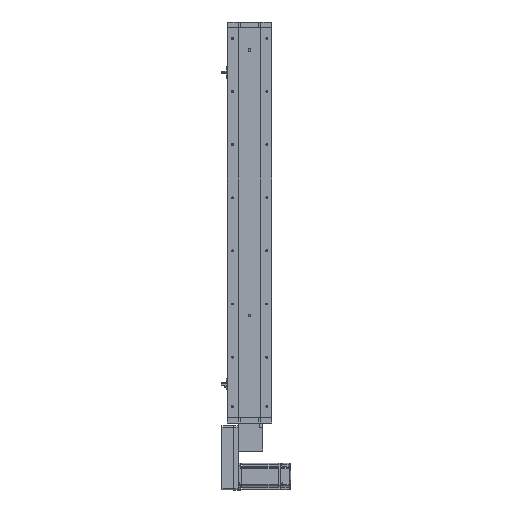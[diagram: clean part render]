
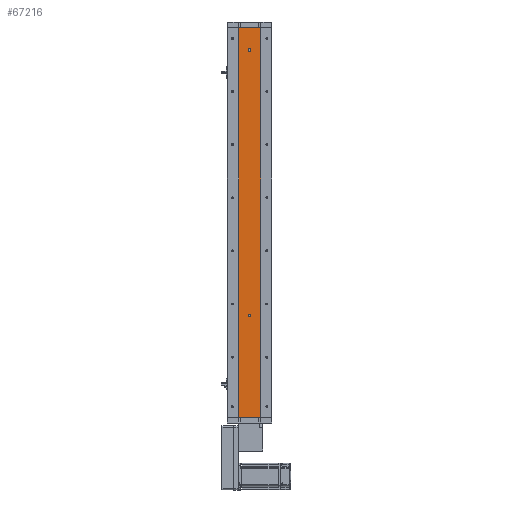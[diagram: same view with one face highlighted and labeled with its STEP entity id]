
A CAD part, left-side view. The second image highlights one B-rep face of the part: STEP entity #67216.
In plain terms, the highlighted planar face has unit normal (-1, 0, 0).
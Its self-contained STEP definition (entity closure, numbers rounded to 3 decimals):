
#2102 = VERTEX_POINT ( 'NONE', #51905 ) ;
#2475 = EDGE_CURVE ( 'NONE', #2102, #23821, #25388, .T. ) ;
#2680 = CARTESIAN_POINT ( 'NONE',  ( -18.926, 24.785, 880. ) ) ;
#2857 = LINE ( 'NONE', #51355, #62042 ) ;
#2989 = DIRECTION ( 'NONE',  ( 0., -1., 0. ) ) ;
#3592 = DIRECTION ( 'NONE',  ( 0., 0., -1. ) ) ;
#5074 = FACE_OUTER_BOUND ( 'NONE', #20719, .T. ) ;
#6252 = ORIENTED_EDGE ( 'NONE', *, *, #50830, .F. ) ;
#7159 = LINE ( 'NONE', #22671, #52490 ) ;
#9421 = ORIENTED_EDGE ( 'NONE', *, *, #11326, .F. ) ;
#11067 = CARTESIAN_POINT ( 'NONE',  ( -18.926, 0., 233. ) ) ;
#11326 = EDGE_CURVE ( 'NONE', #53409, #28539, #66128, .T. ) ;
#12633 = AXIS2_PLACEMENT_3D ( 'NONE', #69788, #34347, #75707 ) ;
#15307 = VERTEX_POINT ( 'NONE', #67828 ) ;
#16659 = LINE ( 'NONE', #32438, #30605 ) ;
#16952 = ORIENTED_EDGE ( 'NONE', *, *, #27613, .F. ) ;
#17142 = DIRECTION ( 'NONE',  ( -1., 0., 0. ) ) ;
#19873 = DIRECTION ( 'NONE',  ( -1., 0., 0. ) ) ;
#20656 = EDGE_CURVE ( 'NONE', #41853, #15307, #66762, .T. ) ;
#20719 = EDGE_LOOP ( 'NONE', ( #23865, #73633, #6252, #75916 ) ) ;
#21414 = EDGE_CURVE ( 'NONE', #23821, #2102, #52555, .T. ) ;
#21885 = DIRECTION ( 'NONE',  ( 0., 0., -1. ) ) ;
#22671 = CARTESIAN_POINT ( 'NONE',  ( -18.926, 24.785, 880. ) ) ;
#22813 = CARTESIAN_POINT ( 'NONE',  ( -18.926, 0., 830. ) ) ;
#23821 = VERTEX_POINT ( 'NONE', #41912 ) ;
#23865 = ORIENTED_EDGE ( 'NONE', *, *, #48418, .T. ) ;
#25388 = CIRCLE ( 'NONE', #75964, 3. ) ;
#27613 = EDGE_CURVE ( 'NONE', #28539, #53409, #59341, .T. ) ;
#28393 = PLANE ( 'NONE',  #12633 ) ;
#28539 = VERTEX_POINT ( 'NONE', #36876 ) ;
#28783 = DIRECTION ( 'NONE',  ( 0., 0., 1. ) ) ;
#29059 = DIRECTION ( 'NONE',  ( -1., 0., 0. ) ) ;
#30605 = VECTOR ( 'NONE', #2989, 1000. ) ;
#32438 = CARTESIAN_POINT ( 'NONE',  ( -18.926, 24.785, 0. ) ) ;
#34347 = DIRECTION ( 'NONE',  ( 1., 0., 0. ) ) ;
#36581 = FACE_BOUND ( 'NONE', #60368, .T. ) ;
#36752 = ORIENTED_EDGE ( 'NONE', *, *, #2475, .F. ) ;
#36876 = CARTESIAN_POINT ( 'NONE',  ( -18.926, 0., 227. ) ) ;
#41853 = VERTEX_POINT ( 'NONE', #44697 ) ;
#41912 = CARTESIAN_POINT ( 'NONE',  ( -18.926, 0., 833. ) ) ;
#44697 = CARTESIAN_POINT ( 'NONE',  ( -18.926, -24.785, 880. ) ) ;
#45320 = VERTEX_POINT ( 'NONE', #48947 ) ;
#46381 = AXIS2_PLACEMENT_3D ( 'NONE', #22813, #64237, #28783 ) ;
#48382 = EDGE_LOOP ( 'NONE', ( #70179, #36752 ) ) ;
#48418 = EDGE_CURVE ( 'NONE', #45320, #15307, #16659, .T. ) ;
#48947 = CARTESIAN_POINT ( 'NONE',  ( -18.926, 24.785, 0. ) ) ;
#50405 = FACE_BOUND ( 'NONE', #48382, .T. ) ;
#50830 = EDGE_CURVE ( 'NONE', #53161, #41853, #7159, .T. ) ;
#50994 = VECTOR ( 'NONE', #3592, 1000. ) ;
#51355 = CARTESIAN_POINT ( 'NONE',  ( -18.926, 24.785, 880. ) ) ;
#51905 = CARTESIAN_POINT ( 'NONE',  ( -18.926, 0., 827. ) ) ;
#52490 = VECTOR ( 'NONE', #64080, 1000. ) ;
#52555 = CIRCLE ( 'NONE', #46381, 3. ) ;
#52600 = CARTESIAN_POINT ( 'NONE',  ( -18.926, 0., 830. ) ) ;
#53161 = VERTEX_POINT ( 'NONE', #2680 ) ;
#53409 = VERTEX_POINT ( 'NONE', #11067 ) ;
#55346 = CARTESIAN_POINT ( 'NONE',  ( -18.926, 0., 230. ) ) ;
#58562 = DIRECTION ( 'NONE',  ( 0., 0., 1. ) ) ;
#59341 = CIRCLE ( 'NONE', #72356, 3. ) ;
#60368 = EDGE_LOOP ( 'NONE', ( #9421, #16952 ) ) ;
#61300 = DIRECTION ( 'NONE',  ( 0., 0., 1. ) ) ;
#62042 = VECTOR ( 'NONE', #21885, 1000. ) ;
#62573 = CARTESIAN_POINT ( 'NONE',  ( -18.926, -24.785, 880. ) ) ;
#64080 = DIRECTION ( 'NONE',  ( 0., -1., 0. ) ) ;
#64237 = DIRECTION ( 'NONE',  ( -1., 0., 0. ) ) ;
#64498 = CARTESIAN_POINT ( 'NONE',  ( -18.926, 0., 230. ) ) ;
#66128 = CIRCLE ( 'NONE', #75218, 3. ) ;
#66762 = LINE ( 'NONE', #62573, #50994 ) ;
#67216 = ADVANCED_FACE ( 'NONE', ( #36581, #50405, #5074 ), #28393, .F. ) ;
#67828 = CARTESIAN_POINT ( 'NONE',  ( -18.926, -24.785, 0. ) ) ;
#69788 = CARTESIAN_POINT ( 'NONE',  ( -18.926, 24.785, 880. ) ) ;
#70179 = ORIENTED_EDGE ( 'NONE', *, *, #21414, .F. ) ;
#70435 = DIRECTION ( 'NONE',  ( 0., 0., 1. ) ) ;
#72356 = AXIS2_PLACEMENT_3D ( 'NONE', #55346, #19873, #61300 ) ;
#73633 = ORIENTED_EDGE ( 'NONE', *, *, #20656, .F. ) ;
#74177 = EDGE_CURVE ( 'NONE', #53161, #45320, #2857, .T. ) ;
#75218 = AXIS2_PLACEMENT_3D ( 'NONE', #64498, #29059, #70435 ) ;
#75707 = DIRECTION ( 'NONE',  ( 0., 0., -1. ) ) ;
#75916 = ORIENTED_EDGE ( 'NONE', *, *, #74177, .T. ) ;
#75964 = AXIS2_PLACEMENT_3D ( 'NONE', #52600, #17142, #58562 ) ;
